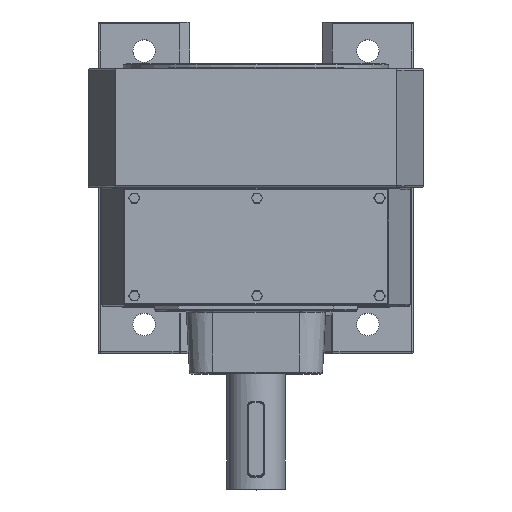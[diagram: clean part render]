
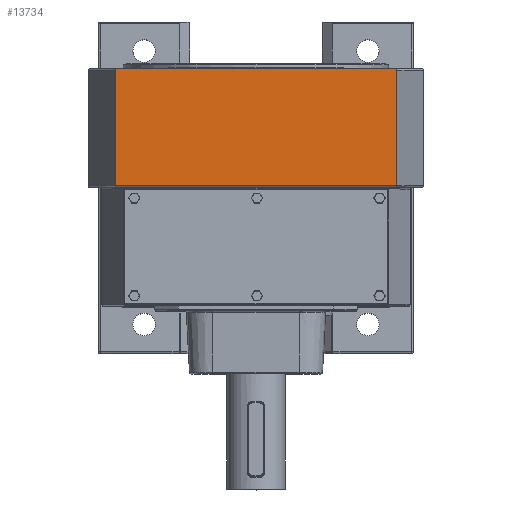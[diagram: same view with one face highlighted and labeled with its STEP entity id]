
A CAD part, top view. The second image highlights one B-rep face of the part: STEP entity #13734.
In plain terms, the highlighted planar face has unit normal (0, 0, 1).
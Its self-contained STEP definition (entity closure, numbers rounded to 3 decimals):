
#5999=CARTESIAN_POINT('',(-85.0,70.5,187.0));
#6000=VERTEX_POINT('',#5999);
#6001=CARTESIAN_POINT('',(-83.923,71.5,187.0));
#6002=VERTEX_POINT('',#6001);
#6003=CARTESIAN_POINT('',(-83.923,70.5,187.0));
#6004=DIRECTION('',(0.0,0.0,-1.0));
#6005=DIRECTION('',(-1.0,0.0,0.0));
#6006=AXIS2_PLACEMENT_3D('',#6003,#6004,#6005);
#6007=ELLIPSE('',#6006,1.077,1.);
#6008=EDGE_CURVE('',#6000,#6002,#6007,.T.);
#6246=CARTESIAN_POINT('',(83.923,71.5,187.));
#6247=VERTEX_POINT('',#6246);
#6248=CARTESIAN_POINT('',(83.923,71.5,187.));
#6249=DIRECTION('',(-1.0,0.0,0.0));
#6250=VECTOR('',#6249,167.846);
#6251=LINE('',#6248,#6250);
#6252=EDGE_CURVE('',#6247,#6002,#6251,.T.);
#6499=CARTESIAN_POINT('',(85.0,70.5,187.0));
#6500=VERTEX_POINT('',#6499);
#6501=CARTESIAN_POINT('',(83.923,70.5,187.));
#6502=DIRECTION('',(0.0,0.0,-1.0));
#6503=DIRECTION('',(1.0,0.0,0.0));
#6504=AXIS2_PLACEMENT_3D('',#6501,#6502,#6503);
#6505=ELLIPSE('',#6504,1.077,1.);
#6506=EDGE_CURVE('',#6247,#6500,#6505,.T.);
#6733=CARTESIAN_POINT('',(-85.0,1.0,187.0));
#6734=VERTEX_POINT('',#6733);
#6765=CARTESIAN_POINT('',(85.0,1.,187.0));
#6766=VERTEX_POINT('',#6765);
#6774=CARTESIAN_POINT('',(85.0,1.,187.));
#6775=DIRECTION('',(-1.0,0.0,0.0));
#6776=VECTOR('',#6775,170.0);
#6777=LINE('',#6774,#6776);
#6778=EDGE_CURVE('',#6766,#6734,#6777,.T.);
#13711=CARTESIAN_POINT('',(0.0,0.0,187.));
#13712=DIRECTION('',(0.0,0.0,1.0));
#13713=DIRECTION('',(1.0,0.0,0.0));
#13714=AXIS2_PLACEMENT_3D('',#13711,#13712,#13713);
#13715=PLANE('',#13714);
#13716=ORIENTED_EDGE('',*,*,#6008,.F.);
#13717=CARTESIAN_POINT('',(-85.0,1.0,187.0));
#13718=DIRECTION('',(0.0,1.0,0.0));
#13719=VECTOR('',#13718,69.5);
#13720=LINE('',#13717,#13719);
#13721=EDGE_CURVE('',#6734,#6000,#13720,.T.);
#13722=ORIENTED_EDGE('',*,*,#13721,.F.);
#13723=ORIENTED_EDGE('',*,*,#6778,.F.);
#13724=CARTESIAN_POINT('',(85.0,1.,187.0));
#13725=DIRECTION('',(0.0,1.0,0.0));
#13726=VECTOR('',#13725,69.5);
#13727=LINE('',#13724,#13726);
#13728=EDGE_CURVE('',#6766,#6500,#13727,.T.);
#13729=ORIENTED_EDGE('',*,*,#13728,.T.);
#13730=ORIENTED_EDGE('',*,*,#6506,.F.);
#13731=ORIENTED_EDGE('',*,*,#6252,.T.);
#13732=EDGE_LOOP('',(#13716,#13722,#13723,#13729,#13730,#13731));
#13733=FACE_OUTER_BOUND('',#13732,.T.);
#13734=ADVANCED_FACE('',(#13733),#13715,.T.);
